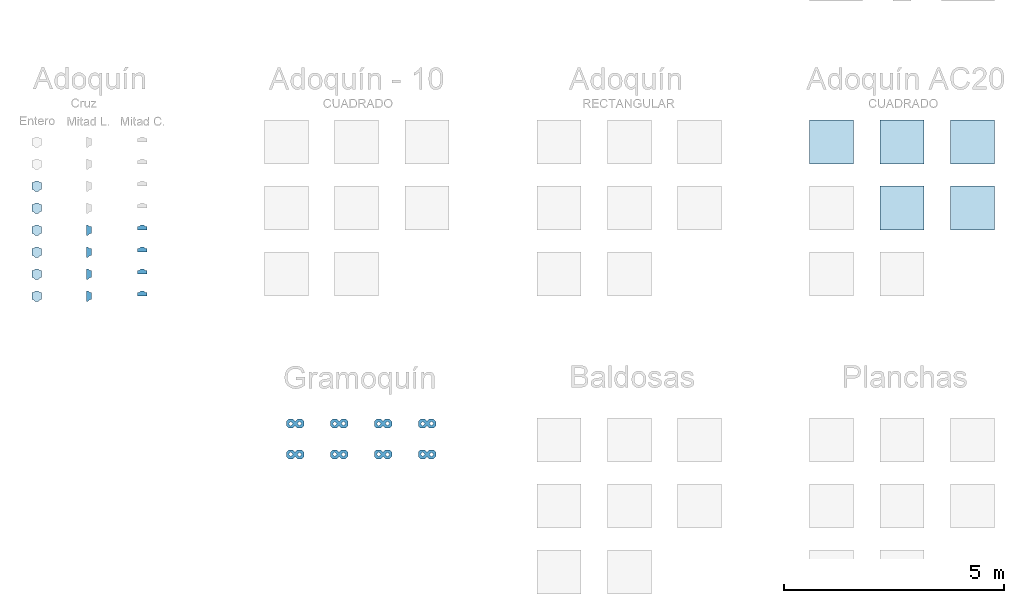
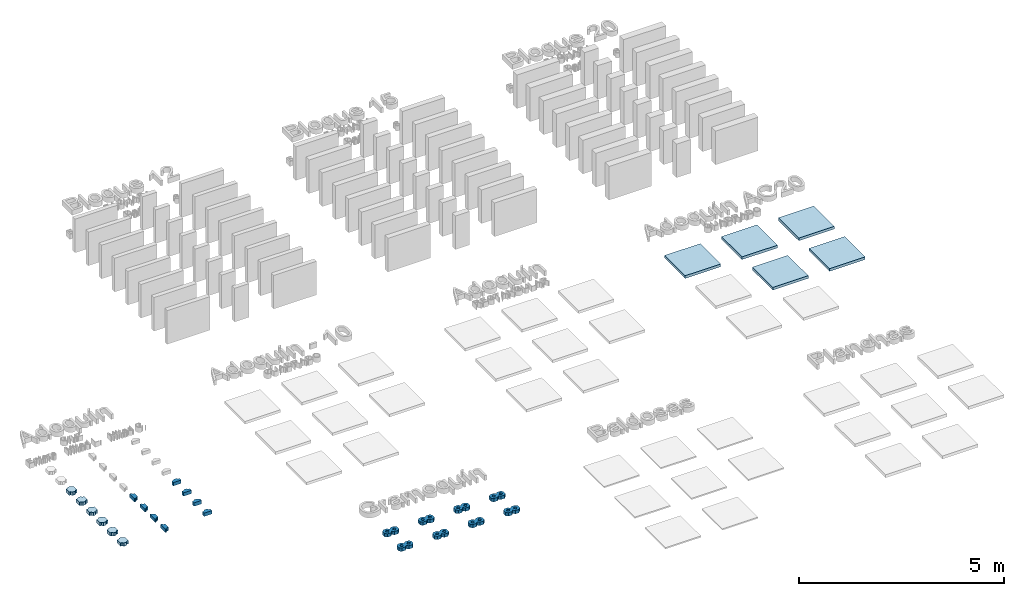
# One storey, part 2 of 19: 27 slabs.
"""IFC2X3 building model written with IfcOpenShell, lengths in metres."""

from ifc_helpers import new_model, entity, si_unit, converted_unit, derived_unit, direction, frame, frame_2d, origin, place, context, subcontext, project, spatial, polyline, rectangle, outline, extrude, material, layer, layer_set, layer_usage, type_object, element, save


model = new_model("IFC2X3")

# Units and contexts
model_context = context("Model", 3, precision=1e-05, world=origin(), true_north=direction((6.12303176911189e-17, 1.0)))
body_context = subcontext(model_context, "Body", "Model", "MODEL_VIEW")
ifc_project = project(units=[si_unit("LENGTHUNIT", "METRE"), si_unit("AREAUNIT", "SQUARE_METRE"), si_unit("VOLUMEUNIT", "CUBIC_METRE"), converted_unit("PLANEANGLEUNIT", "DEGREE", entity("IfcRatioMeasure", 0.0174532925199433), si_unit("PLANEANGLEUNIT", "RADIAN"), dimensions=[0, 0, 0, 0, 0, 0, 0]), si_unit("MASSUNIT", "GRAM", prefix="KILO"), derived_unit("MASSDENSITYUNIT", [(si_unit("MASSUNIT", "GRAM", prefix="KILO"), 1), (si_unit("LENGTHUNIT", "METRE"), -3)]), derived_unit("MOMENTOFINERTIAUNIT", [(si_unit("LENGTHUNIT", "METRE"), 4)]), si_unit("TIMEUNIT", "SECOND"), si_unit("FREQUENCYUNIT", "HERTZ"), si_unit("THERMODYNAMICTEMPERATUREUNIT", "DEGREE_CELSIUS"), derived_unit("THERMALTRANSMITTANCEUNIT", [(si_unit("MASSUNIT", "GRAM", prefix="KILO"), 1), (si_unit("THERMODYNAMICTEMPERATUREUNIT", "KELVIN"), -1), (si_unit("TIMEUNIT", "SECOND"), -3)]), derived_unit("VOLUMETRICFLOWRATEUNIT", [(si_unit("LENGTHUNIT", "METRE"), 3), (si_unit("TIMEUNIT", "SECOND"), -1)]), si_unit("ELECTRICCURRENTUNIT", "AMPERE"), si_unit("ELECTRICVOLTAGEUNIT", "VOLT"), si_unit("POWERUNIT", "WATT"), si_unit("FORCEUNIT", "NEWTON", prefix="KILO"), si_unit("ILLUMINANCEUNIT", "LUX"), si_unit("LUMINOUSFLUXUNIT", "LUMEN"), si_unit("LUMINOUSINTENSITYUNIT", "CANDELA"), derived_unit("USERDEFINED", [(si_unit("MASSUNIT", "GRAM", prefix="KILO"), -1), (si_unit("LENGTHUNIT", "METRE"), -2), (si_unit("TIMEUNIT", "SECOND"), 3), (si_unit("LUMINOUSFLUXUNIT", "LUMEN"), 1)]), derived_unit("LINEARVELOCITYUNIT", [(si_unit("LENGTHUNIT", "METRE"), 1), (si_unit("TIMEUNIT", "SECOND"), -1)]), si_unit("PRESSUREUNIT", "PASCAL"), derived_unit("USERDEFINED", [(si_unit("LENGTHUNIT", "METRE"), -2), (si_unit("MASSUNIT", "GRAM", prefix="KILO"), 1), (si_unit("TIMEUNIT", "SECOND"), -2)]), derived_unit("LINEARFORCEUNIT", [(si_unit("MASSUNIT", "GRAM", prefix="KILO"), 1), (si_unit("LENGTHUNIT", "METRE"), 1), (si_unit("TIMEUNIT", "SECOND"), -2), (si_unit("LENGTHUNIT", "METRE"), -1)]), derived_unit("PLANARFORCEUNIT", [(si_unit("MASSUNIT", "GRAM", prefix="KILO"), 1), (si_unit("LENGTHUNIT", "METRE"), 1), (si_unit("TIMEUNIT", "SECOND"), -2), (si_unit("LENGTHUNIT", "METRE"), -2)])], contexts=[model_context])

# Site, building, storey
site_placement = place(None, origin())
site = spatial("IfcSite", under=ifc_project, at=site_placement, Name="Default", CompositionType="ELEMENT")
building_placement = place(site_placement, origin())
building = spatial("IfcBuilding", under=site, at=building_placement, CompositionType="ELEMENT")
storey_placement = place(building_placement, origin())
storey = spatial("IfcBuildingStorey", under=building, at=storey_placement, Name="Nivel 1", CompositionType="ELEMENT", Elevation=0.0)

# Slabs
ifc_material_1 = material(Name="Adoquín AC20 - Natural")
ifc_layer_1 = layer(ifc_material_1, 0.08)
ifc_layer_set_1 = layer_set([ifc_layer_1], Name="Suelo:Adoquín AC20 - Natural")
ifc_layer_usage_1 = layer_usage(ifc_layer_set_1, "AXIS3", "POSITIVE", 0.0)
slab_type_1 = type_object("IfcSlabType", Name="Suelo:Adoquín AC20 - Natural", PredefinedType="FLOOR", material=ifc_layer_set_1)
slab_1_placement = place(storey_placement, origin())
element("IfcSlab", 1, at=slab_1_placement, inside=storey, type_object=slab_type_1, material=ifc_layer_usage_1, Name="Suelo:Adoquín AC20 - Natural", ObjectType="Suelo:Adoquín AC20 - Natural", PredefinedType="FLOOR", context=body_context, shape_type="SweptSolid", body=[
    extrude(rectangle(XDim=0.999999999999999, YDim=1.00000000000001, at=frame_2d((5.55111512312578e-16, -2.16493489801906e-15), x_axis=(1.0, 0.0))), frame((7.45148767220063, 1.71404309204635, 0.0), z_axis=(0.0, 0.0, -1.0), x_axis=(0.0, 1.0, 0.0)), (0.0, 0.0, 1.0), 0.08),
])
ifc_material_2 = material(Name="Adoquín AC20 - Rosado")
ifc_layer_2 = layer(ifc_material_2, 0.08)
ifc_layer_set_2 = layer_set([ifc_layer_2], Name="Suelo:Adoquín AC20 - Rosado")
ifc_layer_usage_2 = layer_usage(ifc_layer_set_2, "AXIS3", "POSITIVE", 0.0)
slab_type_2 = type_object("IfcSlabType", Name="Suelo:Adoquín AC20 - Rosado", PredefinedType="FLOOR", material=ifc_layer_set_2)
slab_2_placement = place(storey_placement, origin())
element("IfcSlab", 2, at=slab_2_placement, inside=storey, type_object=slab_type_2, material=ifc_layer_usage_2, Name="Suelo:Adoquín AC20 - Rosado", ObjectType="Suelo:Adoquín AC20 - Rosado", PredefinedType="FLOOR", context=body_context, shape_type="SweptSolid", body=[
    extrude(rectangle(XDim=0.999999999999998, YDim=1.00000000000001, at=frame_2d((5.55111512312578e-16, -2.16493489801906e-15), x_axis=(1.0, 0.0))), frame((9.05148767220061, 1.71404309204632, 0.0), z_axis=(0.0, 0.0, -1.0), x_axis=(0.0, 1.0, 0.0)), (0.0, 0.0, 1.0), 0.08),
])
ifc_material_3 = material(Name="Adoquín AC20 - Rojo")
ifc_layer_3 = layer(ifc_material_3, 0.08)
ifc_layer_set_3 = layer_set([ifc_layer_3], Name="Suelo:Adoquín AC20 - Rojo")
ifc_layer_usage_3 = layer_usage(ifc_layer_set_3, "AXIS3", "POSITIVE", 0.0)
slab_type_3 = type_object("IfcSlabType", Name="Suelo:Adoquín AC20 - Rojo", PredefinedType="FLOOR", material=ifc_layer_set_3)
slab_3_placement = place(storey_placement, origin())
element("IfcSlab", 3, at=slab_3_placement, inside=storey, type_object=slab_type_3, material=ifc_layer_usage_3, Name="Suelo:Adoquín AC20 - Rojo", ObjectType="Suelo:Adoquín AC20 - Rojo", PredefinedType="FLOOR", context=body_context, shape_type="SweptSolid", body=[
    extrude(rectangle(XDim=0.999999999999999, YDim=1.00000000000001, at=frame_2d((5.55111512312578e-16, -3.27515792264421e-15), x_axis=(1.0, 0.0))), frame((10.6514876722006, 1.7140430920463, 0.0), z_axis=(0.0, 0.0, -1.0), x_axis=(0.0, 1.0, 0.0)), (0.0, 0.0, 1.0), 0.08),
])
ifc_material_4 = material(Name="Adoquín AC20 - Amarillo")
ifc_layer_4 = layer(ifc_material_4, 0.08)
ifc_layer_set_4 = layer_set([ifc_layer_4], Name="Suelo:Adoquín AC20 - Amarillo")
ifc_layer_usage_4 = layer_usage(ifc_layer_set_4, "AXIS3", "POSITIVE", 0.0)
slab_type_4 = type_object("IfcSlabType", Name="Suelo:Adoquín AC20 - Amarillo", PredefinedType="FLOOR", material=ifc_layer_set_4)
slab_4_placement = place(storey_placement, origin())
element("IfcSlab", 4, at=slab_4_placement, inside=storey, type_object=slab_type_4, material=ifc_layer_usage_4, Name="Suelo:Adoquín AC20 - Amarillo", ObjectType="Suelo:Adoquín AC20 - Amarillo", PredefinedType="FLOOR", context=body_context, shape_type="SweptSolid", body=[
    extrude(rectangle(XDim=0.999999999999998, YDim=1.00000000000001, at=frame_2d((5.55111512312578e-16, -2.16493489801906e-15), x_axis=(1.0, 0.0))), frame((9.05148767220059, 0.214043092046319, 0.0), z_axis=(0.0, 0.0, -1.0), x_axis=(0.0, 1.0, 0.0)), (0.0, 0.0, 1.0), 0.08),
])
ifc_material_5 = material(Name="Adoquín AC20 - Gris")
ifc_layer_5 = layer(ifc_material_5, 0.08)
ifc_layer_set_5 = layer_set([ifc_layer_5], Name="Suelo:Adoquín AC20 - Gris")
ifc_layer_usage_5 = layer_usage(ifc_layer_set_5, "AXIS3", "POSITIVE", 0.0)
slab_type_5 = type_object("IfcSlabType", Name="Suelo:Adoquín AC20 - Gris", PredefinedType="FLOOR", material=ifc_layer_set_5)
slab_5_placement = place(storey_placement, origin())
element("IfcSlab", 5, at=slab_5_placement, inside=storey, type_object=slab_type_5, material=ifc_layer_usage_5, Name="Suelo:Adoquín AC20 - Gris", ObjectType="Suelo:Adoquín AC20 - Gris", PredefinedType="FLOOR", context=body_context, shape_type="SweptSolid", body=[
    extrude(rectangle(XDim=1.0, YDim=1.00000000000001, at=frame_2d((5.55111512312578e-16, -3.27515792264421e-15), x_axis=(1.0, 0.0))), frame((10.6514876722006, 0.214043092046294, 0.0), z_axis=(0.0, 0.0, -1.0), x_axis=(0.0, 1.0, 0.0)), (0.0, 0.0, 1.0), 0.08),
])
ifc_material_6 = material(Name="Gramoquín - Natural")
slab_type_6 = type_object("IfcSlabType", Name="Gramoquín:Gramoquín", PredefinedType="FLOOR", material=ifc_material_6)
slab_6_placement = place(storey_placement, origin())
element("IfcSlab", 6, at=slab_6_placement, inside=storey, type_object=slab_type_6, Name="Gramoquín:Gramoquín", ObjectType="Gramoquín:Gramoquín", PredefinedType="FLOOR", context=body_context, shape_type="SweptSolid", body=[
    extrude(outline(polyline([(0.0500000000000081, -0.0999999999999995), (0.150000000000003, -0.0999999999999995), (0.2, -0.0499999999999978), (0.199999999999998, 0.0500000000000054), (0.150000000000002, 0.1), (0.0500000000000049, 0.0999999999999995), (0.0, 0.0499999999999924), (-0.0500000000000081, 0.0999999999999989), (-0.149999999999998, 0.0999999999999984), (-0.199999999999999, 0.0499999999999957), (-0.199999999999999, -0.0500000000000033), (-0.150000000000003, -0.0999999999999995), (-0.0499999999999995, -0.0999999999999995), (0.0, -0.0499999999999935), (0.0500000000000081, -0.0999999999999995)]), holes=[polyline([(-0.100000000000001, -0.0510050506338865), (-0.151005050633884, 0.0), (-0.100000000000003, 0.051005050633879), (-0.0489949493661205, 0.0), (-0.100000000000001, -0.0510050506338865)]), polyline([(0.100000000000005, -0.0510050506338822), (0.0489949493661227, 0.0), (0.100000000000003, 0.0510050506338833), (0.151005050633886, 0.0), (0.100000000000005, -0.0510050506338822)])]), frame((-4.74851232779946, -4.68595690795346, 0.0), z_axis=(0.0, 0.0, 1.0), x_axis=(-1.0, 0.0, 0.0)), (0.0, 0.0, 1.0), 0.1),
])
ifc_material_7 = material(Name="Gramoquín - Rosado")
slab_type_7 = type_object("IfcSlabType", Name="Gramoquín1:Gramoquín", PredefinedType="FLOOR", material=ifc_material_7)
slab_7_placement = place(storey_placement, origin())
element("IfcSlab", 7, at=slab_7_placement, inside=storey, type_object=slab_type_7, Name="Gramoquín1:Gramoquín", ObjectType="Gramoquín1:Gramoquín", PredefinedType="FLOOR", context=body_context, shape_type="SweptSolid", body=[
    extrude(outline(polyline([(0.0500000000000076, -0.0999999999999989), (0.150000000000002, -0.0999999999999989), (0.199999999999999, -0.0499999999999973), (0.199999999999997, 0.050000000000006), (0.150000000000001, 0.100000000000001), (0.0500000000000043, 0.1), (0.0, 0.049999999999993), (-0.0500000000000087, 0.0999999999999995), (-0.149999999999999, 0.0999999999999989), (-0.199999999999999, 0.0499999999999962), (-0.199999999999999, -0.0500000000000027), (-0.150000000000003, -0.0999999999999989), (-0.05, -0.0999999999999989), (0.0, -0.049999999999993), (0.0500000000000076, -0.0999999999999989)]), holes=[polyline([(-0.100000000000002, -0.051005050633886), (-0.151005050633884, 0.0), (-0.100000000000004, 0.0510050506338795), (-0.0489949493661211, 0.0), (-0.100000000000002, -0.051005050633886)]), polyline([(0.100000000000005, -0.0510050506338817), (0.0489949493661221, 0.0), (0.100000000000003, 0.0510050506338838), (0.151005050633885, 0.0), (0.100000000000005, -0.0510050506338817)])]), frame((-3.74851232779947, -4.68595690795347, 0.0), z_axis=(0.0, 0.0, 1.0), x_axis=(-1.0, 0.0, 0.0)), (0.0, 0.0, 1.0), 0.1),
])
ifc_material_8 = material(Name="Gramoquín - Rojo")
slab_type_8 = type_object("IfcSlabType", Name="Gramoquín2:Gramoquín", PredefinedType="FLOOR", material=ifc_material_8)
slab_8_placement = place(storey_placement, origin())
element("IfcSlab", 8, at=slab_8_placement, inside=storey, type_object=slab_type_8, Name="Gramoquín2:Gramoquín", ObjectType="Gramoquín2:Gramoquín", PredefinedType="FLOOR", context=body_context, shape_type="SweptSolid", body=[
    extrude(outline(polyline([(0.0500000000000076, -0.0999999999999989), (0.150000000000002, -0.0999999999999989), (0.199999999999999, -0.0499999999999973), (0.199999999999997, 0.050000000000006), (0.150000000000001, 0.100000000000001), (0.0500000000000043, 0.1), (0.0, 0.049999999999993), (-0.0500000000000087, 0.0999999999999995), (-0.15, 0.0999999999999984), (-0.200000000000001, 0.0499999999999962), (-0.199999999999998, -0.0500000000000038), (-0.150000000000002, -0.0999999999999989), (-0.05, -0.0999999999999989), (0.0, -0.049999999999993), (0.0500000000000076, -0.0999999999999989)]), holes=[polyline([(-0.100000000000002, -0.051005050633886), (-0.151005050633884, 0.0), (-0.100000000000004, 0.0510050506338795), (-0.0489949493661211, 0.0), (-0.100000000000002, -0.051005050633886)]), polyline([(0.100000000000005, -0.0510050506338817), (0.0489949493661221, 0.0), (0.100000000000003, 0.0510050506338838), (0.151005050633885, 0.0), (0.100000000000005, -0.0510050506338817)])]), frame((-2.74851232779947, -4.68595690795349, 0.0), z_axis=(0.0, 0.0, 1.0), x_axis=(-1.0, 0.0, 0.0)), (0.0, 0.0, 1.0), 0.1),
])
ifc_material_9 = material(Name="Gramoquín - Adobe")
slab_type_9 = type_object("IfcSlabType", Name="Gramoquín3:Gramoquín", PredefinedType="FLOOR", material=ifc_material_9)
slab_9_placement = place(storey_placement, origin())
element("IfcSlab", 9, at=slab_9_placement, inside=storey, type_object=slab_type_9, Name="Gramoquín3:Gramoquín", ObjectType="Gramoquín3:Gramoquín", PredefinedType="FLOOR", context=body_context, shape_type="SweptSolid", body=[
    extrude(outline(polyline([(0.0500000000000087, -0.0999999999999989), (0.150000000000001, -0.0999999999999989), (0.199999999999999, -0.0499999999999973), (0.199999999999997, 0.050000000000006), (0.150000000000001, 0.100000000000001), (0.0500000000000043, 0.1), (0.0, 0.049999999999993), (-0.0500000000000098, 0.0999999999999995), (-0.15, 0.0999999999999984), (-0.200000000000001, 0.0499999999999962), (-0.199999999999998, -0.0500000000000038), (-0.150000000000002, -0.0999999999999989), (-0.0500000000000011, -0.0999999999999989), (0.0, -0.049999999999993), (0.0500000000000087, -0.0999999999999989)]), holes=[polyline([(-0.100000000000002, -0.051005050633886), (-0.151005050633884, 0.0), (-0.100000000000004, 0.0510050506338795), (-0.0489949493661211, 0.0), (-0.100000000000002, -0.051005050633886)]), polyline([(0.100000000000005, -0.0510050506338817), (0.0489949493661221, 0.0), (0.100000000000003, 0.0510050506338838), (0.151005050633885, 0.0), (0.100000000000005, -0.0510050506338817)])]), frame((-1.74851232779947, -4.6859569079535, 0.0), z_axis=(0.0, 0.0, 1.0), x_axis=(-1.0, 0.0, 0.0)), (0.0, 0.0, 1.0), 0.1),
])
ifc_material_10 = material(Name="Gramoquín - Amarillo")
slab_type_10 = type_object("IfcSlabType", Name="Gramoquín4:Gramoquín", PredefinedType="FLOOR", material=ifc_material_10)
slab_10_placement = place(storey_placement, origin())
element("IfcSlab", 10, at=slab_10_placement, inside=storey, type_object=slab_type_10, Name="Gramoquín4:Gramoquín", ObjectType="Gramoquín4:Gramoquín", PredefinedType="FLOOR", context=body_context, shape_type="SweptSolid", body=[
    extrude(outline(polyline([(0.0500000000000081, -0.0999999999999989), (0.150000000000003, -0.0999999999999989), (0.2, -0.0499999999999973), (0.199999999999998, 0.050000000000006), (0.150000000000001, 0.100000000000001), (0.0500000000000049, 0.1), (0.0, 0.049999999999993), (-0.0500000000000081, 0.0999999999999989), (-0.149999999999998, 0.0999999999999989), (-0.199999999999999, 0.0499999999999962), (-0.199999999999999, -0.0500000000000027), (-0.150000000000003, -0.0999999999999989), (-0.0499999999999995, -0.0999999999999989), (0.0, -0.049999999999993), (0.0500000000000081, -0.0999999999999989)]), holes=[polyline([(-0.100000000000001, -0.051005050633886), (-0.151005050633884, 0.0), (-0.100000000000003, 0.0510050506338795), (-0.0489949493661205, 0.0), (-0.100000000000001, -0.051005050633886)]), polyline([(0.100000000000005, -0.0510050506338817), (0.0489949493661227, 0.0), (0.100000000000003, 0.0510050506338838), (0.151005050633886, 0.0), (0.100000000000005, -0.0510050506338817)])]), frame((-4.74851232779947, -5.38595690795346, 0.0), z_axis=(0.0, 0.0, 1.0), x_axis=(-1.0, 0.0, 0.0)), (0.0, 0.0, 1.0), 0.1),
])
ifc_material_11 = material(Name="Gramoquín - Gris")
slab_type_11 = type_object("IfcSlabType", Name="Gramoquín5:Gramoquín", PredefinedType="FLOOR", material=ifc_material_11)
slab_11_placement = place(storey_placement, origin())
element("IfcSlab", 11, at=slab_11_placement, inside=storey, type_object=slab_type_11, Name="Gramoquín5:Gramoquín", ObjectType="Gramoquín5:Gramoquín", PredefinedType="FLOOR", context=body_context, shape_type="SweptSolid", body=[
    extrude(outline(polyline([(0.0500000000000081, -0.0999999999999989), (0.150000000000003, -0.0999999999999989), (0.2, -0.0499999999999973), (0.199999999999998, 0.050000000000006), (0.150000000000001, 0.100000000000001), (0.0500000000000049, 0.1), (0.0, 0.049999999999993), (-0.0500000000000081, 0.0999999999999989), (-0.149999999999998, 0.0999999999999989), (-0.199999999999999, 0.0499999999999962), (-0.199999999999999, -0.0500000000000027), (-0.150000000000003, -0.0999999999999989), (-0.0499999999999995, -0.0999999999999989), (0.0, -0.049999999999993), (0.0500000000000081, -0.0999999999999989)]), holes=[polyline([(-0.100000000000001, -0.051005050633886), (-0.151005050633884, 0.0), (-0.100000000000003, 0.0510050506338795), (-0.0489949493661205, 0.0), (-0.100000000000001, -0.051005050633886)]), polyline([(0.100000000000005, -0.0510050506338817), (0.0489949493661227, 0.0), (0.100000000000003, 0.0510050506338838), (0.151005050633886, 0.0), (0.100000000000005, -0.0510050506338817)])]), frame((-3.74851232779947, -5.38595690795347, 0.0), z_axis=(0.0, 0.0, 1.0), x_axis=(-1.0, 0.0, 0.0)), (0.0, 0.0, 1.0), 0.1),
])
ifc_material_12 = material(Name="Gramoquín - Chocolate")
slab_type_12 = type_object("IfcSlabType", Name="Gramoquín6:Gramoquín", PredefinedType="FLOOR", material=ifc_material_12)
slab_12_placement = place(storey_placement, origin())
element("IfcSlab", 12, at=slab_12_placement, inside=storey, type_object=slab_type_12, Name="Gramoquín6:Gramoquín", ObjectType="Gramoquín6:Gramoquín", PredefinedType="FLOOR", context=body_context, shape_type="SweptSolid", body=[
    extrude(outline(polyline([(0.050000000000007, -0.0999999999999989), (0.150000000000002, -0.0999999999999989), (0.199999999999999, -0.0499999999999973), (0.199999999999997, 0.050000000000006), (0.149999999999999, 0.100000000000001), (0.0500000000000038, 0.1), (0.0, 0.049999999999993), (-0.0500000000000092, 0.0999999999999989), (-0.149999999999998, 0.1), (-0.200000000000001, 0.0499999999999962), (-0.199999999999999, -0.0500000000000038), (-0.150000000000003, -0.0999999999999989), (-0.0500000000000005, -0.0999999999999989), (0.0, -0.049999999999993), (0.050000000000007, -0.0999999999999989)]), holes=[polyline([(-0.100000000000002, -0.051005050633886), (-0.151005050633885, 0.0), (-0.100000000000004, 0.0510050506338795), (-0.0489949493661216, 0.0), (-0.100000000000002, -0.051005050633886)]), polyline([(0.100000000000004, -0.0510050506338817), (0.0489949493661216, 0.0), (0.100000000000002, 0.0510050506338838), (0.151005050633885, 0.0), (0.100000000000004, -0.0510050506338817)])]), frame((-2.74851232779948, -5.38595690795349, 0.0), z_axis=(0.0, 0.0, 1.0), x_axis=(-1.0, 0.0, 0.0)), (0.0, 0.0, 1.0), 0.1),
])
ifc_material_13 = material(Name="Gramoquín - Negro")
slab_type_13 = type_object("IfcSlabType", Name="Gramoquín7:Gramoquín", PredefinedType="FLOOR", material=ifc_material_13)
slab_13_placement = place(storey_placement, origin())
element("IfcSlab", 13, at=slab_13_placement, inside=storey, type_object=slab_type_13, Name="Gramoquín7:Gramoquín", ObjectType="Gramoquín7:Gramoquín", PredefinedType="FLOOR", context=body_context, shape_type="SweptSolid", body=[
    extrude(outline(polyline([(0.0500000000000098, -0.0999999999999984), (0.150000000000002, -0.0999999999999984), (0.2, -0.0499999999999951), (0.199999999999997, 0.0500000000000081), (0.15, 0.100000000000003), (0.0500000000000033, 0.100000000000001), (0.0, 0.049999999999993), (-0.0500000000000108, 0.0999999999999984), (-0.149999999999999, 0.0999999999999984), (-0.200000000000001, 0.049999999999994), (-0.199999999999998, -0.050000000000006), (-0.150000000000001, -0.100000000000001), (-0.05, -0.100000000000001), (0.0, -0.049999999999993), (0.0500000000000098, -0.0999999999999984)]), holes=[polyline([(-0.100000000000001, -0.0510050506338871), (-0.151005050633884, 0.0), (-0.100000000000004, 0.0510050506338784), (-0.0489949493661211, 0.0), (-0.100000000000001, -0.0510050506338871)]), polyline([(0.100000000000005, -0.0510050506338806), (0.0489949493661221, 0.0), (0.100000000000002, 0.0510050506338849), (0.151005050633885, 0.0), (0.100000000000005, -0.0510050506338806)])]), frame((-1.74851232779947, -5.3859569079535, 0.0), z_axis=(0.0, 0.0, 1.0), x_axis=(-1.0, 0.0, 0.0)), (0.0, 0.0, 1.0), 0.1),
])
ifc_material_14 = material(Name="Adoquín Cruz - Rojo")
slab_type_14 = type_object("IfcSlabType", Name="Gramoquín10:Gramoquín", PredefinedType="FLOOR", material=ifc_material_14)
slab_14_placement = place(storey_placement, origin())
element("IfcSlab", 14, at=slab_14_placement, inside=storey, type_object=slab_type_14, Name="Gramoquín10:Gramoquín", ObjectType="Gramoquín10:Gramoquín", PredefinedType="FLOOR", context=body_context, shape_type="SweptSolid", body=[
    extrude(outline(polyline([(-0.0800000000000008, -0.109999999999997), (0.0799999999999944, -0.109999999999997), (0.079999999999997, -0.0725000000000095), (0.120000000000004, -0.0325000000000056), (0.120000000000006, 0.0325000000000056), (0.0800000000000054, 0.0725000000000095), (0.0800000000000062, 0.110000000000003), (-0.0800000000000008, 0.110000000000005), (-0.0800000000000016, 0.0725000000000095), (-0.120000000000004, 0.0325000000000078), (-0.120000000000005, -0.0324999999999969), (-0.0800000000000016, -0.0725000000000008), (-0.0800000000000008, -0.109999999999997)])), frame((-10.6243147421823, 0.71277312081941, 0.0), z_axis=(0.0, 0.0, 1.0), x_axis=(0.0, -1.0, 0.0)), (0.0, 0.0, 1.0), 0.1),
])
ifc_material_15 = material(Name="Adoquín Cruz - Adobe")
slab_type_15 = type_object("IfcSlabType", Name="Gramoquín11:Gramoquín", PredefinedType="FLOOR", material=ifc_material_15)
slab_15_placement = place(storey_placement, origin())
element("IfcSlab", 15, at=slab_15_placement, inside=storey, type_object=slab_type_15, Name="Gramoquín11:Gramoquín", ObjectType="Gramoquín11:Gramoquín", PredefinedType="FLOOR", context=body_context, shape_type="SweptSolid", body=[
    extrude(outline(polyline([(-0.0800000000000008, -0.110000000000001), (0.0799999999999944, -0.110000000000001), (0.079999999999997, -0.0725000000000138), (0.120000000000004, -0.0325000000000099), (0.120000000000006, 0.0325000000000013), (0.0800000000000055, 0.0725000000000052), (0.0800000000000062, 0.109999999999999), (-0.0800000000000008, 0.110000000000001), (-0.0800000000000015, 0.0725000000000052), (-0.120000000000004, 0.0325000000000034), (-0.120000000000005, -0.0325000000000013), (-0.0800000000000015, -0.0725000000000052), (-0.0800000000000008, -0.110000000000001)])), frame((-10.6243147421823, 0.212773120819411, 0.0), z_axis=(0.0, 0.0, 1.0), x_axis=(0.0, -1.0, 0.0)), (0.0, 0.0, 1.0), 0.1),
])
ifc_material_16 = material(Name="Adoquín Cruz - Amarillo")
slab_type_16 = type_object("IfcSlabType", Name="Gramoquín12:Gramoquín", PredefinedType="FLOOR", material=ifc_material_16)
slab_16_placement = place(storey_placement, origin())
element("IfcSlab", 16, at=slab_16_placement, inside=storey, type_object=slab_type_16, Name="Gramoquín12:Gramoquín", ObjectType="Gramoquín12:Gramoquín", PredefinedType="FLOOR", context=body_context, shape_type="SweptSolid", body=[
    extrude(outline(polyline([(-0.0800000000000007, -0.109999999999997), (0.0799999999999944, -0.109999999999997), (0.0799999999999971, -0.0725000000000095), (0.120000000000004, -0.0325000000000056), (0.120000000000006, 0.0325000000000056), (0.0800000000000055, 0.0725000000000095), (0.0800000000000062, 0.110000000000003), (-0.0800000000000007, 0.110000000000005), (-0.0800000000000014, 0.0725000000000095), (-0.120000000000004, 0.0325000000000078), (-0.120000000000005, -0.0324999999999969), (-0.0800000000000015, -0.0725000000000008), (-0.0800000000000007, -0.109999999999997)])), frame((-10.6243147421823, -0.287226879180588, 0.0), z_axis=(0.0, 0.0, 1.0), x_axis=(0.0, -1.0, 0.0)), (0.0, 0.0, 1.0), 0.1),
])
ifc_material_17 = material(Name="Adoquín Cruz - Gris")
slab_type_17 = type_object("IfcSlabType", Name="Gramoquín13:Gramoquín", PredefinedType="FLOOR", material=ifc_material_17)
slab_17_placement = place(storey_placement, origin())
element("IfcSlab", 17, at=slab_17_placement, inside=storey, type_object=slab_type_17, Name="Gramoquín13:Gramoquín", ObjectType="Gramoquín13:Gramoquín", PredefinedType="FLOOR", context=body_context, shape_type="SweptSolid", body=[
    extrude(outline(polyline([(-0.0800000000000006, -0.110000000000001), (0.0799999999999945, -0.110000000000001), (0.0799999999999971, -0.0725000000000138), (0.120000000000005, -0.0325000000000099), (0.120000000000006, 0.0325000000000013), (0.0800000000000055, 0.0725000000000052), (0.0800000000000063, 0.109999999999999), (-0.0800000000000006, 0.110000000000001), (-0.0800000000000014, 0.0725000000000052), (-0.120000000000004, 0.0325000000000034), (-0.120000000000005, -0.0325000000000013), (-0.0800000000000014, -0.0725000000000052), (-0.0800000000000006, -0.110000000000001)])), frame((-10.6243147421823, -0.787226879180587, 0.0), z_axis=(0.0, 0.0, 1.0), x_axis=(0.0, -1.0, 0.0)), (0.0, 0.0, 1.0), 0.1),
])
ifc_material_18 = material(Name="Adoquín Cruz - Chocolate")
slab_type_18 = type_object("IfcSlabType", Name="Gramoquín14:Gramoquín", PredefinedType="FLOOR", material=ifc_material_18)
slab_18_placement = place(storey_placement, origin())
element("IfcSlab", 18, at=slab_18_placement, inside=storey, type_object=slab_type_18, Name="Gramoquín14:Gramoquín", ObjectType="Gramoquín14:Gramoquín", PredefinedType="FLOOR", context=body_context, shape_type="SweptSolid", body=[
    extrude(outline(polyline([(-0.0800000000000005, -0.109999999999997), (0.0799999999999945, -0.109999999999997), (0.0799999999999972, -0.0725000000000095), (0.120000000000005, -0.0325000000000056), (0.120000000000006, 0.0325000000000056), (0.0800000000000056, 0.0725000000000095), (0.0800000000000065, 0.110000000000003), (-0.0800000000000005, 0.110000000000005), (-0.0800000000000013, 0.0725000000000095), (-0.120000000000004, 0.0325000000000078), (-0.120000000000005, -0.0324999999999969), (-0.0800000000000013, -0.0725000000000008), (-0.0800000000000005, -0.109999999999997)])), frame((-10.6243147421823, -1.28722687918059, 0.0), z_axis=(0.0, 0.0, 1.0), x_axis=(0.0, -1.0, 0.0)), (0.0, 0.0, 1.0), 0.1),
])
ifc_material_19 = material(Name="Adoquín Cruz - Negro")
slab_type_19 = type_object("IfcSlabType", Name="Gramoquín15:Gramoquín", PredefinedType="FLOOR", material=ifc_material_19)
slab_19_placement = place(storey_placement, origin())
element("IfcSlab", 19, at=slab_19_placement, inside=storey, type_object=slab_type_19, Name="Gramoquín15:Gramoquín", ObjectType="Gramoquín15:Gramoquín", PredefinedType="FLOOR", context=body_context, shape_type="SweptSolid", body=[
    extrude(outline(polyline([(-0.0800000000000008, -0.110000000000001), (0.0799999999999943, -0.110000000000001), (0.079999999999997, -0.0725000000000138), (0.120000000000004, -0.0325000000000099), (0.120000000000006, 0.0325000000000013), (0.0800000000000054, 0.0725000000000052), (0.0800000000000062, 0.109999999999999), (-0.0800000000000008, 0.110000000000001), (-0.0800000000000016, 0.0725000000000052), (-0.120000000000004, 0.0325000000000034), (-0.120000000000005, -0.0325000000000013), (-0.0800000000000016, -0.0725000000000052), (-0.0800000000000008, -0.110000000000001)])), frame((-10.6243147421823, -1.78722687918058, 0.0), z_axis=(0.0, 0.0, 1.0), x_axis=(0.0, -1.0, 0.0)), (0.0, 0.0, 1.0), 0.1),
])
slab_type_20 = type_object("IfcSlabType", Name="Gramoquín20:Gramoquín", PredefinedType="FLOOR", material=ifc_material_16)
slab_20_placement = place(storey_placement, origin())
element("IfcSlab", 20, at=slab_20_placement, inside=storey, type_object=slab_type_20, Name="Gramoquín20:Gramoquín", ObjectType="Gramoquín20:Gramoquín", PredefinedType="FLOOR", context=body_context, shape_type="SweptSolid", body=[
    extrude(outline(polyline([(-0.0800000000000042, -0.0562499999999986), (0.0800000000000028, -0.0562499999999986), (0.0800000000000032, -0.0187500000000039), (0.120000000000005, 0.0212499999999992), (0.120000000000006, 0.0537500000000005), (-0.120000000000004, 0.053750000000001), (-0.120000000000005, 0.0212499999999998), (-0.0800000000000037, -0.0187500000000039), (-0.0800000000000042, -0.0562499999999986)])), frame((-9.44048319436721, -0.287226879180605, 0.0), z_axis=(0.0, 0.0, 1.0), x_axis=(0.0, 1.0, 0.0)), (0.0, 0.0, 1.0), 0.1),
])
slab_type_21 = type_object("IfcSlabType", Name="Gramoquín21:Gramoquín", PredefinedType="FLOOR", material=ifc_material_17)
slab_21_placement = place(storey_placement, origin())
element("IfcSlab", 21, at=slab_21_placement, inside=storey, type_object=slab_type_21, Name="Gramoquín21:Gramoquín", ObjectType="Gramoquín21:Gramoquín", PredefinedType="FLOOR", context=body_context, shape_type="SweptSolid", body=[
    extrude(outline(polyline([(-0.0800000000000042, -0.0562499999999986), (0.0800000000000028, -0.0562499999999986), (0.0800000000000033, -0.0187500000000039), (0.120000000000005, 0.0212499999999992), (0.120000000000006, 0.0537500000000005), (-0.120000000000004, 0.053750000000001), (-0.120000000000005, 0.0212499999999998), (-0.0800000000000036, -0.0187500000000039), (-0.0800000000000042, -0.0562499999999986)])), frame((-9.44048319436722, -0.787226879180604, 0.0), z_axis=(0.0, 0.0, 1.0), x_axis=(0.0, 1.0, 0.0)), (0.0, 0.0, 1.0), 0.1),
])
slab_type_22 = type_object("IfcSlabType", Name="Gramoquín22:Gramoquín", PredefinedType="FLOOR", material=ifc_material_18)
slab_22_placement = place(storey_placement, origin())
element("IfcSlab", 22, at=slab_22_placement, inside=storey, type_object=slab_type_22, Name="Gramoquín22:Gramoquín", ObjectType="Gramoquín22:Gramoquín", PredefinedType="FLOOR", context=body_context, shape_type="SweptSolid", body=[
    extrude(outline(polyline([(-0.0800000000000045, -0.0562499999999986), (0.0800000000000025, -0.0562499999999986), (0.0800000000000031, -0.0187500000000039), (0.120000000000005, 0.0212499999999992), (0.120000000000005, 0.0537500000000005), (-0.120000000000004, 0.053750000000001), (-0.120000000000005, 0.0212499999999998), (-0.0800000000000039, -0.0187500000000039), (-0.0800000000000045, -0.0562499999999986)])), frame((-9.44048319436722, -1.2872268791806, 0.0), z_axis=(0.0, 0.0, 1.0), x_axis=(0.0, 1.0, 0.0)), (0.0, 0.0, 1.0), 0.1),
])
slab_type_23 = type_object("IfcSlabType", Name="Gramoquín23:Gramoquín", PredefinedType="FLOOR", material=ifc_material_19)
slab_23_placement = place(storey_placement, origin())
element("IfcSlab", 23, at=slab_23_placement, inside=storey, type_object=slab_type_23, Name="Gramoquín23:Gramoquín", ObjectType="Gramoquín23:Gramoquín", PredefinedType="FLOOR", context=body_context, shape_type="SweptSolid", body=[
    extrude(outline(polyline([(-0.0800000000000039, -0.0562499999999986), (0.080000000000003, -0.0562499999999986), (0.0800000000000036, -0.0187500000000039), (0.120000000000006, 0.0212499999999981), (0.120000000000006, 0.0537500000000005), (-0.120000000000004, 0.053750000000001), (-0.120000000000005, 0.0212499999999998), (-0.0800000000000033, -0.0187500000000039), (-0.0800000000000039, -0.0562499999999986)])), frame((-9.44048319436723, -1.7872268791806, 0.0), z_axis=(0.0, 0.0, 1.0), x_axis=(0.0, 1.0, 0.0)), (0.0, 0.0, 1.0), 0.1),
])
slab_type_24 = type_object("IfcSlabType", Name="Gramoquín28:Gramoquín", PredefinedType="FLOOR", material=ifc_material_16)
slab_24_placement = place(storey_placement, origin())
element("IfcSlab", 24, at=slab_24_placement, inside=storey, type_object=slab_type_24, Name="Gramoquín28:Gramoquín", ObjectType="Gramoquín28:Gramoquín", PredefinedType="FLOOR", context=body_context, shape_type="SweptSolid", body=[
    extrude(outline(polyline([(-0.00999999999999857, -0.110000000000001), (0.0699999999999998, -0.110000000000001), (0.0699999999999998, 0.11), (-0.00999999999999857, 0.11), (-0.00999999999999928, 0.0725000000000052), (-0.0500000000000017, 0.0325000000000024), (-0.0500000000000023, -0.0325000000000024), (-0.00999999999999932, -0.0725000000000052), (-0.00999999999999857, -0.110000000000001)])), frame((-8.22158044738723, -0.217226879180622, 0.0), z_axis=(0.0, 0.0, 1.0), x_axis=(0.0, -1.0, 0.0)), (0.0, 0.0, 1.0), 0.1),
])
slab_type_25 = type_object("IfcSlabType", Name="Gramoquín29:Gramoquín", PredefinedType="FLOOR", material=ifc_material_17)
slab_25_placement = place(storey_placement, origin())
element("IfcSlab", 25, at=slab_25_placement, inside=storey, type_object=slab_type_25, Name="Gramoquín29:Gramoquín", ObjectType="Gramoquín29:Gramoquín", PredefinedType="FLOOR", context=body_context, shape_type="SweptSolid", body=[
    extrude(outline(polyline([(-0.00999999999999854, -0.110000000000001), (0.0699999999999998, -0.110000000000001), (0.0699999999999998, 0.11), (-0.00999999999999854, 0.11), (-0.00999999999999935, 0.0725000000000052), (-0.0500000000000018, 0.0325000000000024), (-0.0500000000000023, -0.0325000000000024), (-0.00999999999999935, -0.0725000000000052), (-0.00999999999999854, -0.110000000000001)])), frame((-8.22158044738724, -0.717226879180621, 0.0), z_axis=(0.0, 0.0, 1.0), x_axis=(0.0, -1.0, 0.0)), (0.0, 0.0, 1.0), 0.1),
])
slab_type_26 = type_object("IfcSlabType", Name="Gramoquín30:Gramoquín", PredefinedType="FLOOR", material=ifc_material_18)
slab_26_placement = place(storey_placement, origin())
element("IfcSlab", 26, at=slab_26_placement, inside=storey, type_object=slab_type_26, Name="Gramoquín30:Gramoquín", ObjectType="Gramoquín30:Gramoquín", PredefinedType="FLOOR", context=body_context, shape_type="SweptSolid", body=[
    extrude(outline(polyline([(-0.00999999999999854, -0.110000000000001), (0.0699999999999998, -0.110000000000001), (0.0699999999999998, 0.11), (-0.00999999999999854, 0.11), (-0.00999999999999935, 0.0725000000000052), (-0.0500000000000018, 0.0325000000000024), (-0.0500000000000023, -0.0325000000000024), (-0.00999999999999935, -0.0725000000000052), (-0.00999999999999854, -0.110000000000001)])), frame((-8.22158044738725, -1.21722687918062, 0.0), z_axis=(0.0, 0.0, 1.0), x_axis=(0.0, -1.0, 0.0)), (0.0, 0.0, 1.0), 0.1),
])
slab_type_27 = type_object("IfcSlabType", Name="Gramoquín31:Gramoquín", PredefinedType="FLOOR", material=ifc_material_19)
slab_27_placement = place(storey_placement, origin())
element("IfcSlab", 27, at=slab_27_placement, inside=storey, type_object=slab_type_27, Name="Gramoquín31:Gramoquín", ObjectType="Gramoquín31:Gramoquín", PredefinedType="FLOOR", context=body_context, shape_type="SweptSolid", body=[
    extrude(outline(polyline([(-0.00999999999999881, -0.110000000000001), (0.0699999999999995, -0.110000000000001), (0.0699999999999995, 0.11), (-0.00999999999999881, 0.11), (-0.00999999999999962, 0.0725000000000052), (-0.0500000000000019, 0.0325000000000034), (-0.0500000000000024, -0.0325000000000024), (-0.00999999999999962, -0.0725000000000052), (-0.00999999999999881, -0.110000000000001)])), frame((-8.22158044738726, -1.71722687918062, 0.0), z_axis=(0.0, 0.0, 1.0), x_axis=(0.0, -1.0, 0.0)), (0.0, 0.0, 1.0), 0.1),
])

save(model, "model.ifc")
